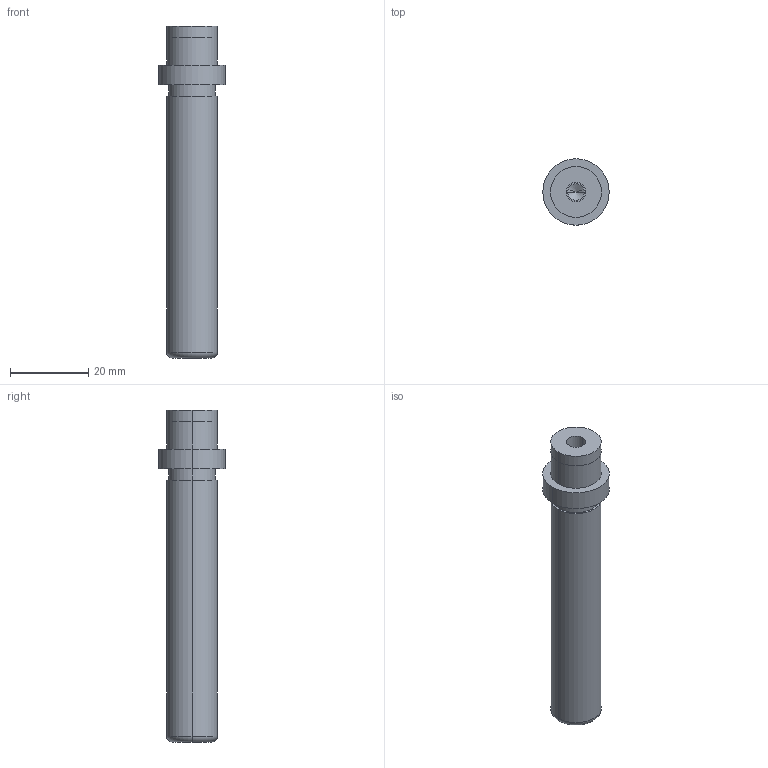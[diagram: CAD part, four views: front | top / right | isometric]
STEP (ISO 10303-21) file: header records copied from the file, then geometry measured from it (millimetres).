
FILE_DESCRIPTION(/* description */ (''),/* implementation_level */ '2;1');
FILE_NAME(/* name */ '3d_sgpw13-75_05295_r00.stp',/* time_stamp */ '2011-01-10T14:11:05+09:00',/* author */ ('MISUMI'),/* organization */ (''),/* preprocessor_version */ 'ST-DEVELOPER v11',/* originating_system */ 'UGS - NX 5.0',/* authorisation */ '');
FILE_SCHEMA (('CONFIG_CONTROL_DESIGN'));
Length unit declared in the file: millimetre
Products named in the file (1): 3d_sgpw13-75_05295_r00
Bounding box: 17 x 17 x 85 mm (x, y, z)
Volume: 11118.4 mm3; surface area: 4440.6 mm2
Topology: 1 solids, 1 shells, 31 faces, 64 edges, 38 vertices
Faces by surface type: cylinder 18, plane 7, cone 4, torus 2
Entity records: 890 total; most frequent: DIRECTION 162, CARTESIAN_POINT 130, ORIENTED_EDGE 120, AXIS2_PLACEMENT_3D 70, EDGE_CURVE 60, EDGE_LOOP 38, CIRCLE 38, VERTEX_POINT 38
